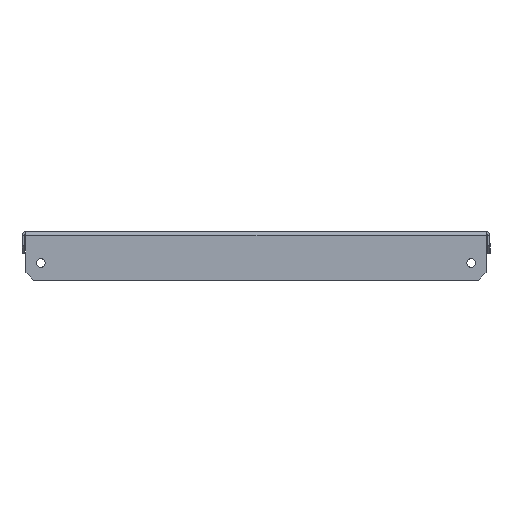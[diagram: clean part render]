
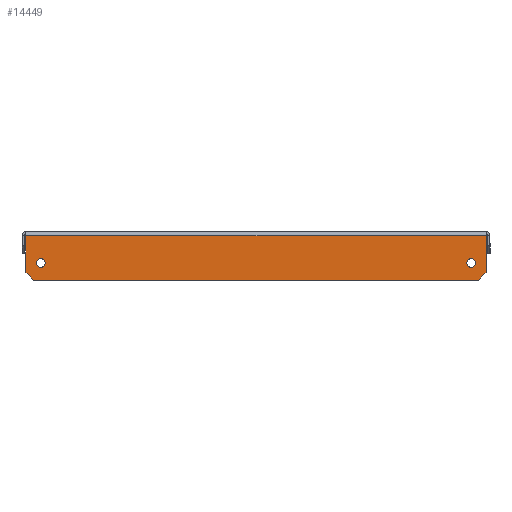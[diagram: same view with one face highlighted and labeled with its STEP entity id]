
A CAD part, left-side view. The second image highlights one B-rep face of the part: STEP entity #14449.
In plain terms, the highlighted planar face has unit normal (-1, 0, 0).
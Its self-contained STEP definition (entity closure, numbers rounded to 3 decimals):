
#140 = FACE_BOUND ( 'NONE', #9140, .T. ) ;
#203 = CARTESIAN_POINT ( 'NONE',  ( -248.5, -86.5, -86.5 ) ) ;
#520 = ORIENTED_EDGE ( 'NONE', *, *, #3622, .F. ) ;
#670 = EDGE_CURVE ( 'NONE', #2412, #2163, #2210, .T. ) ;
#849 = DIRECTION ( 'NONE',  ( 0., 0., 1. ) ) ;
#1055 = AXIS2_PLACEMENT_3D ( 'NONE', #15402, #14244, #15334 ) ;
#1149 = VECTOR ( 'NONE', #4567, 1000. ) ;
#1210 = CARTESIAN_POINT ( 'NONE',  ( -248.5, 147., -1.5 ) ) ;
#1594 = LINE ( 'NONE', #4889, #8005 ) ;
#2121 = CARTESIAN_POINT ( 'NONE',  ( -248.5, -137.5, -17.25 ) ) ;
#2163 = VERTEX_POINT ( 'NONE', #5528 ) ;
#2210 = LINE ( 'NONE', #9208, #1149 ) ;
#2412 = VERTEX_POINT ( 'NONE', #11301 ) ;
#2416 = CARTESIAN_POINT ( 'NONE',  ( -248.5, 142., -31. ) ) ;
#2470 = DIRECTION ( 'NONE',  ( 0., 0., 1. ) ) ;
#3407 = ORIENTED_EDGE ( 'NONE', *, *, #12759, .F. ) ;
#3439 = DIRECTION ( 'NONE',  ( 1., 0., 0. ) ) ;
#3622 = EDGE_CURVE ( 'NONE', #10414, #10963, #13050, .T. ) ;
#3820 = EDGE_LOOP ( 'NONE', ( #520, #13025, #8269, #5019, #12886, #7808 ) ) ;
#4022 = AXIS2_PLACEMENT_3D ( 'NONE', #7063, #3439, #10419 ) ;
#4429 = VERTEX_POINT ( 'NONE', #2416 ) ;
#4567 = DIRECTION ( 'NONE',  ( 0., 0., -1. ) ) ;
#4889 = CARTESIAN_POINT ( 'NONE',  ( -248.5, 0., -2.5 ) ) ;
#5019 = ORIENTED_EDGE ( 'NONE', *, *, #15087, .T. ) ;
#5069 = CIRCLE ( 'NONE', #7586, 2.75 ) ;
#5213 = DIRECTION ( 'NONE',  ( 0., -0.707, 0.707 ) ) ;
#5528 = CARTESIAN_POINT ( 'NONE',  ( -248.5, -147., -26. ) ) ;
#5585 = EDGE_CURVE ( 'NONE', #2412, #10963, #1594, .T. ) ;
#6018 = EDGE_CURVE ( 'NONE', #10150, #4429, #14591, .T. ) ;
#6131 = LINE ( 'NONE', #9824, #9077 ) ;
#6302 = EDGE_LOOP ( 'NONE', ( #7865 ) ) ;
#6735 = CARTESIAN_POINT ( 'NONE',  ( -248.5, 137.5, -20. ) ) ;
#7063 = CARTESIAN_POINT ( 'NONE',  ( -248.5, -137.5, -20. ) ) ;
#7525 = EDGE_CURVE ( 'NONE', #9506, #9506, #8553, .T. ) ;
#7586 = AXIS2_PLACEMENT_3D ( 'NONE', #6735, #8139, #849 ) ;
#7808 = ORIENTED_EDGE ( 'NONE', *, *, #5585, .T. ) ;
#7865 = ORIENTED_EDGE ( 'NONE', *, *, #7525, .T. ) ;
#8005 = VECTOR ( 'NONE', #10849, 1000. ) ;
#8139 = DIRECTION ( 'NONE',  ( -1., 0., 0. ) ) ;
#8269 = ORIENTED_EDGE ( 'NONE', *, *, #6018, .F. ) ;
#8553 = CIRCLE ( 'NONE', #4022, 2.75 ) ;
#9077 = VECTOR ( 'NONE', #10906, 1000. ) ;
#9140 = EDGE_LOOP ( 'NONE', ( #3407 ) ) ;
#9208 = CARTESIAN_POINT ( 'NONE',  ( -248.5, -147., -31. ) ) ;
#9275 = VERTEX_POINT ( 'NONE', #15275 ) ;
#9506 = VERTEX_POINT ( 'NONE', #2121 ) ;
#9824 = CARTESIAN_POINT ( 'NONE',  ( -248.5, 86.5, -86.5 ) ) ;
#10150 = VERTEX_POINT ( 'NONE', #11898 ) ;
#10414 = VERTEX_POINT ( 'NONE', #11481 ) ;
#10419 = DIRECTION ( 'NONE',  ( 0., 0., 1. ) ) ;
#10725 = VECTOR ( 'NONE', #2470, 1000. ) ;
#10849 = DIRECTION ( 'NONE',  ( 0., 1., 0. ) ) ;
#10906 = DIRECTION ( 'NONE',  ( 0., -0.707, -0.707 ) ) ;
#10963 = VERTEX_POINT ( 'NONE', #11922 ) ;
#11060 = CARTESIAN_POINT ( 'NONE',  ( -248.5, 147., -31. ) ) ;
#11245 = LINE ( 'NONE', #203, #11339 ) ;
#11301 = CARTESIAN_POINT ( 'NONE',  ( -248.5, -147., -2.5 ) ) ;
#11339 = VECTOR ( 'NONE', #5213, 1000. ) ;
#11481 = CARTESIAN_POINT ( 'NONE',  ( -248.5, 147., -26. ) ) ;
#11737 = FACE_OUTER_BOUND ( 'NONE', #3820, .T. ) ;
#11898 = CARTESIAN_POINT ( 'NONE',  ( -248.5, -142., -31. ) ) ;
#11922 = CARTESIAN_POINT ( 'NONE',  ( -248.5, 147., -2.5 ) ) ;
#12266 = EDGE_CURVE ( 'NONE', #10414, #4429, #6131, .T. ) ;
#12759 = EDGE_CURVE ( 'NONE', #9275, #9275, #5069, .T. ) ;
#12886 = ORIENTED_EDGE ( 'NONE', *, *, #670, .F. ) ;
#13025 = ORIENTED_EDGE ( 'NONE', *, *, #12266, .T. ) ;
#13050 = LINE ( 'NONE', #1210, #10725 ) ;
#13070 = FACE_BOUND ( 'NONE', #6302, .T. ) ;
#13481 = DIRECTION ( 'NONE',  ( 0., 1., 0. ) ) ;
#14167 = PLANE ( 'NONE',  #1055 ) ;
#14244 = DIRECTION ( 'NONE',  ( -1., 0., 0. ) ) ;
#14248 = VECTOR ( 'NONE', #13481, 1000. ) ;
#14449 = ADVANCED_FACE ( 'NONE', ( #13070, #140, #11737 ), #14167, .T. ) ;
#14591 = LINE ( 'NONE', #11060, #14248 ) ;
#15087 = EDGE_CURVE ( 'NONE', #10150, #2163, #11245, .T. ) ;
#15275 = CARTESIAN_POINT ( 'NONE',  ( -248.5, 137.5, -17.25 ) ) ;
#15334 = DIRECTION ( 'NONE',  ( 0., 0., 1. ) ) ;
#15402 = CARTESIAN_POINT ( 'NONE',  ( -248.5, 0., 0. ) ) ;
